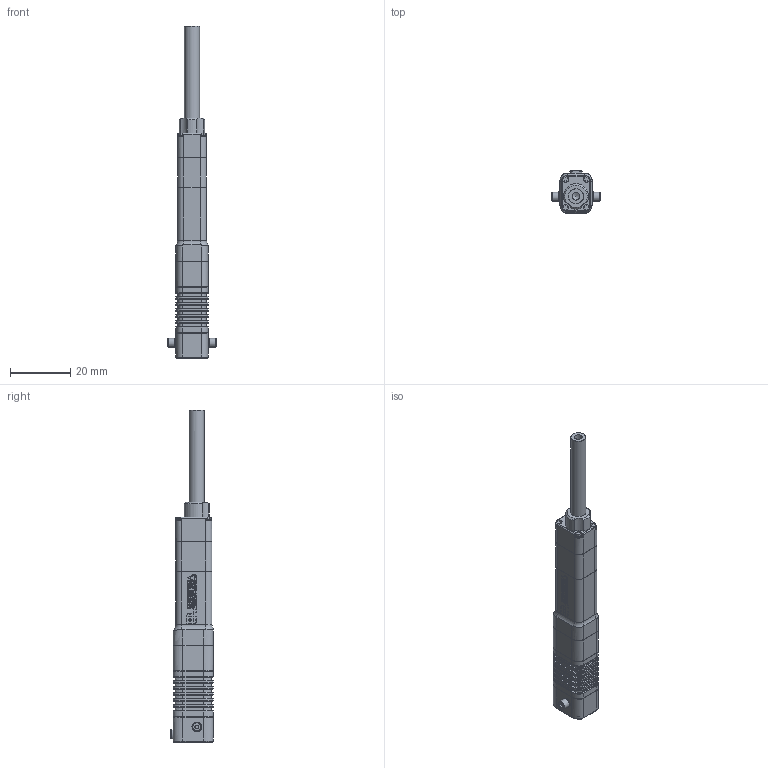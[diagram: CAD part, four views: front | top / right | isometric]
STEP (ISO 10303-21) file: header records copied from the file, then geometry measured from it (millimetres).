
FILE_DESCRIPTION (( 'STEP AP203' ), '1' );
FILE_NAME ('LA30-0x2D-1201.STEP', '2023-12-01T08:44:59', ( '' ), ( '' ), '' );
FILE_SCHEMA (( 'CONFIG_CONTROL_DESIGN' ));
Length unit declared in the file: millimetre
Products named in the file (3): AS820130-015芢裝-俋楷; 錨璃25^LA30-0x2D; LA30-0x2D-1201
Assembly tree (2 placements, depth 2):
  LA30-0x2D-1201
    AS820130-015芢裝-俋楷
    錨璃25^LA30-0x2D
Bounding box: 16.4 x 14 x 110 mm (x, y, z)
Volume: 9372.2 mm3; surface area: 5103 mm2
Topology: 2 solids, 2 shells, 1546 faces, 3998 edges, 2584 vertices
Faces by surface type: plane 849, bspline 556, cylinder 103, cone 34, torus 4
Full cylindrical faces by diameter (mm): 1.25 x2, 2.17 x5, 2.2 x4, 2.4 x1, 2.5 x1, 3 x2, 3.2 x2, 4 x1, 5 x2
Entity records: 59603 total; most frequent: CARTESIAN_POINT 25527, ORIENTED_EDGE 7918, DIRECTION 5088, EDGE_CURVE 3959, LINE 2592, VECTOR 2592, VERTEX_POINT 2571, EDGE_LOOP 1700
